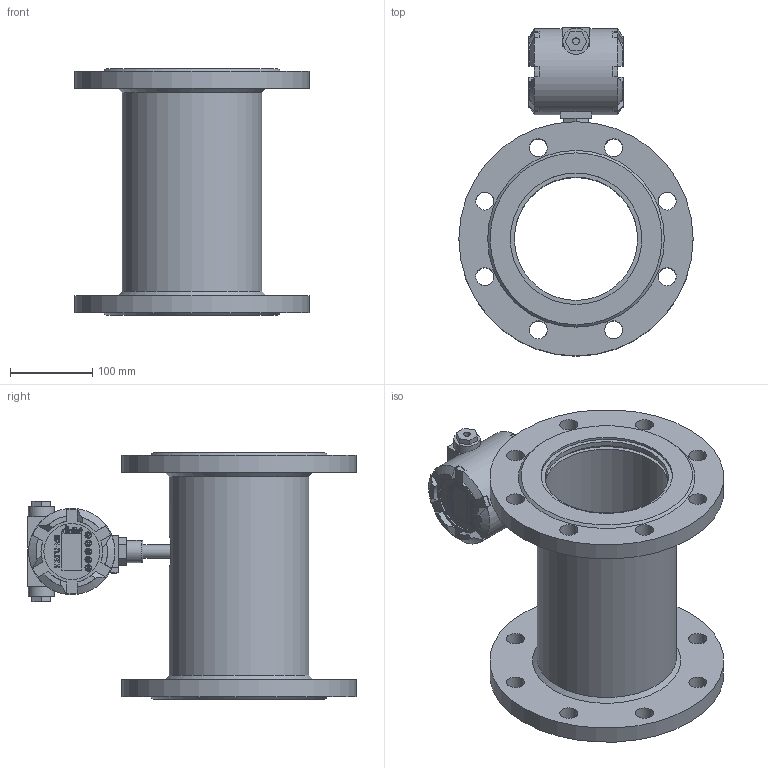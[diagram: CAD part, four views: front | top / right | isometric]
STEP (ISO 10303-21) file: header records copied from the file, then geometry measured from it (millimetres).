
FILE_DESCRIPTION( (''), '2;1');
FILE_NAME( 'QTKC_DN150_flange_Ex.step', '2024-10-14T10:38:28+08:00', (''), (''), '', '', '');
FILE_SCHEMA (('AUTOMOTIVE_DESIGN { 1 0 10303 214 3 1 1 1 }'));
Length unit declared in the file: millimetre
Products named in the file (1): QTKC DN150_flange_Ex
Bounding box: 285 x 399.5 x 300 mm (x, y, z)
Volume: 4100877.9 mm3; surface area: 586943.7 mm2
Topology: 4 solids, 4 shells, 1345 faces, 3692 edges, 2464 vertices
Faces by surface type: plane 728, extrusion 504, cylinder 88, cone 17, torus 6, bspline 2
Full cylindrical faces by diameter (mm): 3.3 x1, 8 x2, 16 x1, 16.5 x1, 18.5 x1, 20 x2, 22 x16, 27 x1, 32 x2, 68 x1, 105 x1, 150 x3, 160 x4, 170 x1, 285 x2
Entity records: 44650 total; most frequent: CARTESIAN_POINT 12691, ORIENTED_EDGE 7210, DIRECTION 4917, EDGE_CURVE 3605, VECTOR 2783, VERTEX_POINT 2428, LINE 2279, B_SPLINE_CURVE_WITH_KNOTS 1603
